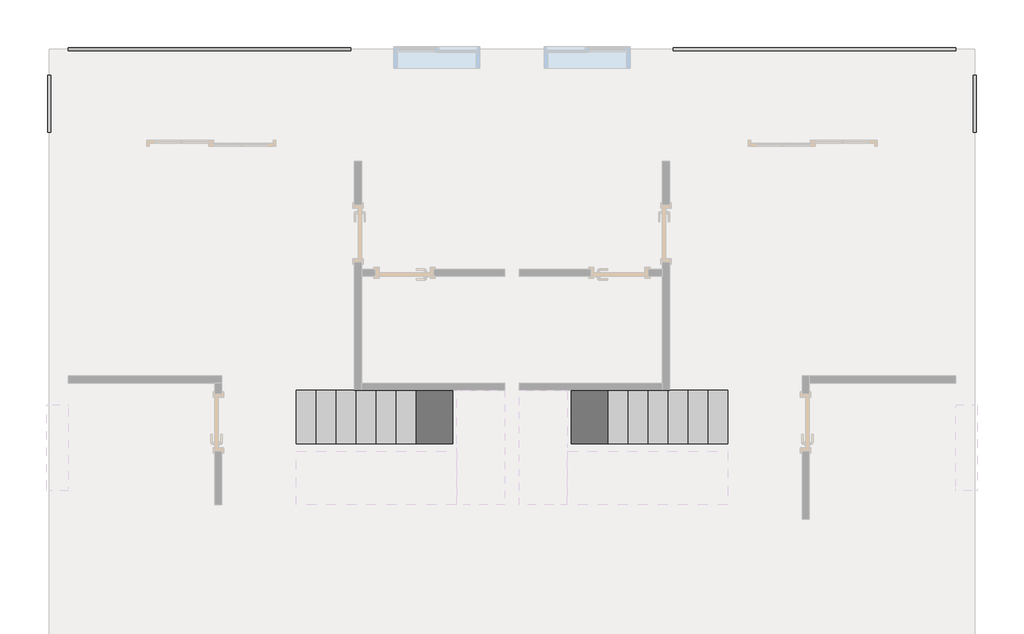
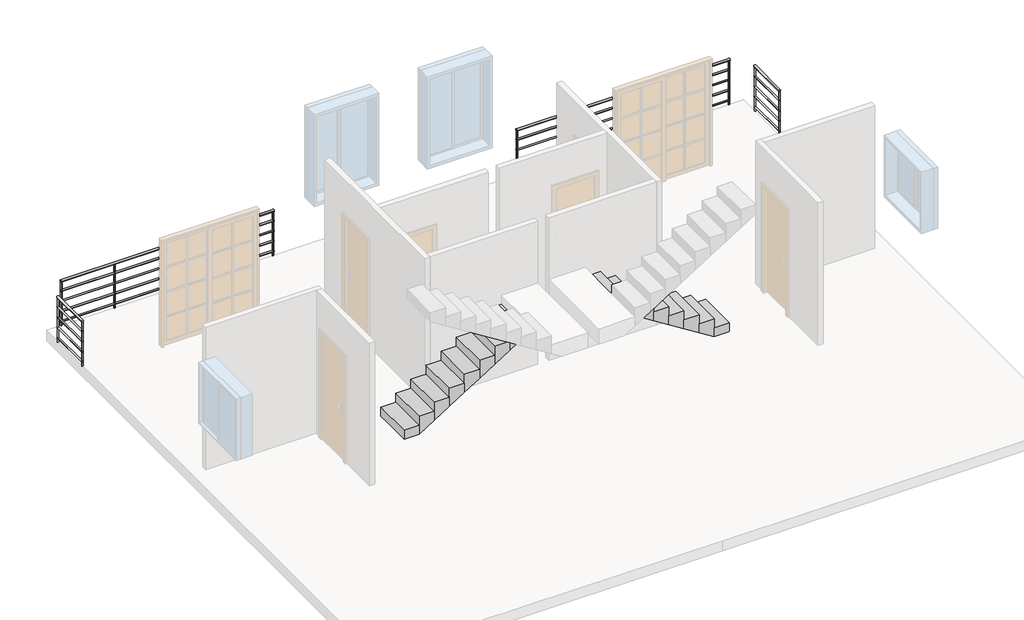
# One storey, part 2 of 2: 4 railings, 2 stair flights.
"""IFC4 building model written with IfcOpenShell, lengths in millimetres."""

from ifc_helpers import new_model, si_unit, point, frame, frame_2d, origin, origin_with_axes, place, context, project, spatial, circle_curve, trimmed, segment, composite_curve, outline, extrude, faceted_brep, element, save

model = new_model("IFC4")

# Units and contexts
model_context = context("Model", 3, world=origin())
ifc_project = project(units=[si_unit("LENGTHUNIT", "METRE", prefix="MILLI")], contexts=[model_context])

# Site, building, storey
site = spatial("IfcSite", under=ifc_project)
building = spatial("IfcBuilding", under=site)
storey = spatial("IfcBuildingStorey", under=building, Name="标高 1", Elevation=0.0)

# Railings
placement = place(None, origin())
element("IfcRailing", 1, ObjectType="900mm 圆管", at=placement, inside=storey, context=model_context, shape_type="SweptSolid", body=[
    extrude(outline(composite_curve([segment(trimmed(circle_curve(frame_2d((880.0, -8299.5311174)), 20.0), [point((880.0, -8279.5311174))], [point((880.0, -8319.5311174))], False, "CARTESIAN"), True, "CONTINUOUS"), segment(trimmed(circle_curve(frame_2d((880.0, -8299.5311174)), 20.0), [point((880.0, -8319.5311174))], [point((880.0, -8279.5311174))], False, "CARTESIAN"), True, "CONTINUOUS")], self_intersect=False)), frame((0.0, 4130.4705333, 0.0), z_axis=(0.0, 1.0, 0.0), x_axis=(0.0, 0.0, 1.0)), (0.0, 0.0, 1.0), 800.0),
    extrude(outline(composite_curve([segment(trimmed(circle_curve(frame_2d((685.0, -8299.5311174)), 15.0), [point((685.0, -8314.5311174))], [point((685.0, -8284.5311174))], False, "CARTESIAN"), True, "CONTINUOUS"), segment(trimmed(circle_curve(frame_2d((685.0, -8299.5311174)), 15.0), [point((685.0, -8284.5311174))], [point((685.0, -8314.5311174))], False, "CARTESIAN"), True, "CONTINUOUS")], self_intersect=False)), frame((0.0, 4130.4705333, 0.0), z_axis=(0.0, 1.0, 0.0), x_axis=(0.0, 0.0, 1.0)), (0.0, 0.0, 1.0), 800.0),
    extrude(outline(composite_curve([segment(trimmed(circle_curve(frame_2d((485.0, -8299.5311174)), 15.0), [point((485.0, -8314.5311174))], [point((485.0, -8284.5311174))], False, "CARTESIAN"), True, "CONTINUOUS"), segment(trimmed(circle_curve(frame_2d((485.0, -8299.5311174)), 15.0), [point((485.0, -8284.5311174))], [point((485.0, -8314.5311174))], False, "CARTESIAN"), True, "CONTINUOUS")], self_intersect=False)), frame((0.0, 4130.4705333, 0.0), z_axis=(0.0, 1.0, 0.0), x_axis=(0.0, 0.0, 1.0)), (0.0, 0.0, 1.0), 800.0),
    extrude(outline(composite_curve([segment(trimmed(circle_curve(frame_2d((285.0, -8299.5311174)), 15.0), [point((285.0, -8314.5311174))], [point((285.0, -8284.5311174))], False, "CARTESIAN"), True, "CONTINUOUS"), segment(trimmed(circle_curve(frame_2d((285.0, -8299.5311174)), 15.0), [point((285.0, -8284.5311174))], [point((285.0, -8314.5311174))], False, "CARTESIAN"), True, "CONTINUOUS")], self_intersect=False)), frame((0.0, 4130.4705333, 0.0), z_axis=(0.0, 1.0, 0.0), x_axis=(0.0, 0.0, 1.0)), (0.0, 0.0, 1.0), 800.0),
    extrude(outline(composite_curve([segment(trimmed(circle_curve(frame_2d((85.0, -8299.5311174)), 15.0), [point((85.0, -8314.5311174))], [point((85.0, -8284.5311174))], False, "CARTESIAN"), True, "CONTINUOUS"), segment(trimmed(circle_curve(frame_2d((85.0, -8299.5311174)), 15.0), [point((85.0, -8284.5311174))], [point((85.0, -8314.5311174))], False, "CARTESIAN"), True, "CONTINUOUS")], self_intersect=False)), frame((0.0, 4130.4705333, 0.0), z_axis=(0.0, 1.0, 0.0), x_axis=(0.0, 0.0, 1.0)), (0.0, 0.0, 1.0), 800.0),
    extrude(outline(composite_curve([segment(trimmed(circle_curve(frame_2d((-8299.5311174, 4917.9705333)), 12.5), [point((-8312.0311174, 4917.9705333))], [point((-8287.0311174, 4917.9705333))], False, "CARTESIAN"), True, "CONTINUOUS"), segment(trimmed(circle_curve(frame_2d((-8299.5311174, 4917.9705333)), 12.5), [point((-8287.0311174, 4917.9705333))], [point((-8312.0311174, 4917.9705333))], False, "CARTESIAN"), True, "CONTINUOUS")], self_intersect=False)), origin_with_axes(), (0.0, 0.0, 1.0), 860.0),
    extrude(outline(composite_curve([segment(trimmed(circle_curve(frame_2d((-8299.5311174, 4142.9705333)), 12.5), [point((-8312.0311174, 4142.9705333))], [point((-8287.0311174, 4142.9705333))], False, "CARTESIAN"), True, "CONTINUOUS"), segment(trimmed(circle_curve(frame_2d((-8299.5311174, 4142.9705333)), 12.5), [point((-8287.0311174, 4142.9705333))], [point((-8312.0311174, 4142.9705333))], False, "CARTESIAN"), True, "CONTINUOUS")], self_intersect=False)), origin_with_axes(), (0.0, 0.0, 1.0), 860.0),
])
element("IfcRailing", 2, ObjectType="900mm 圆管", at=placement, inside=storey, context=model_context, shape_type="SweptSolid", body=[
    extrude(outline(composite_curve([segment(trimmed(circle_curve(frame_2d((5290.4705333, 880.0)), 20.0), [point((5270.4705333, 880.0))], [point((5310.4705333, 880.0))], False, "CARTESIAN"), True, "CONTINUOUS"), segment(trimmed(circle_curve(frame_2d((5290.4705333, 880.0)), 20.0), [point((5310.4705333, 880.0))], [point((5270.4705333, 880.0))], False, "CARTESIAN"), True, "CONTINUOUS")], self_intersect=False)), frame((-8039.5311174, 0.0, 0.0), z_axis=(1.0, 0.0, 0.0), x_axis=(0.0, 1.0, 0.0)), (0.0, 0.0, 1.0), 3950.0),
    extrude(outline(composite_curve([segment(trimmed(circle_curve(frame_2d((5290.4705333, 685.0)), 15.0), [point((5305.4705333, 685.0))], [point((5275.4705333, 685.0))], False, "CARTESIAN"), True, "CONTINUOUS"), segment(trimmed(circle_curve(frame_2d((5290.4705333, 685.0)), 15.0), [point((5275.4705333, 685.0))], [point((5305.4705333, 685.0))], False, "CARTESIAN"), True, "CONTINUOUS")], self_intersect=False)), frame((-8039.5311174, 0.0, 0.0), z_axis=(1.0, 0.0, 0.0), x_axis=(0.0, 1.0, 0.0)), (0.0, 0.0, 1.0), 3950.0),
    extrude(outline(composite_curve([segment(trimmed(circle_curve(frame_2d((5290.4705333, 485.0)), 15.0), [point((5305.4705333, 485.0))], [point((5275.4705333, 485.0))], False, "CARTESIAN"), True, "CONTINUOUS"), segment(trimmed(circle_curve(frame_2d((5290.4705333, 485.0)), 15.0), [point((5275.4705333, 485.0))], [point((5305.4705333, 485.0))], False, "CARTESIAN"), True, "CONTINUOUS")], self_intersect=False)), frame((-8039.5311174, 0.0, 0.0), z_axis=(1.0, 0.0, 0.0), x_axis=(0.0, 1.0, 0.0)), (0.0, 0.0, 1.0), 3950.0),
    extrude(outline(composite_curve([segment(trimmed(circle_curve(frame_2d((5290.4705333, 285.0)), 15.0), [point((5305.4705333, 285.0))], [point((5275.4705333, 285.0))], False, "CARTESIAN"), True, "CONTINUOUS"), segment(trimmed(circle_curve(frame_2d((5290.4705333, 285.0)), 15.0), [point((5275.4705333, 285.0))], [point((5305.4705333, 285.0))], False, "CARTESIAN"), True, "CONTINUOUS")], self_intersect=False)), frame((-8039.5311174, 0.0, 0.0), z_axis=(1.0, 0.0, 0.0), x_axis=(0.0, 1.0, 0.0)), (0.0, 0.0, 1.0), 3950.0),
    extrude(outline(composite_curve([segment(trimmed(circle_curve(frame_2d((5290.4705333, 85.0)), 15.0), [point((5305.4705333, 85.0))], [point((5275.4705333, 85.0))], False, "CARTESIAN"), True, "CONTINUOUS"), segment(trimmed(circle_curve(frame_2d((5290.4705333, 85.0)), 15.0), [point((5275.4705333, 85.0))], [point((5305.4705333, 85.0))], False, "CARTESIAN"), True, "CONTINUOUS")], self_intersect=False)), frame((-8039.5311174, 0.0, 0.0), z_axis=(1.0, 0.0, 0.0), x_axis=(0.0, 1.0, 0.0)), (0.0, 0.0, 1.0), 3950.0),
    extrude(outline(composite_curve([segment(trimmed(circle_curve(frame_2d((-5039.5311174, 5290.4705333)), 12.5), [point((-5039.5311174, 5302.9705333))], [point((-5039.5311174, 5277.9705333))], False, "CARTESIAN"), True, "CONTINUOUS"), segment(trimmed(circle_curve(frame_2d((-5039.5311174, 5290.4705333)), 12.5), [point((-5039.5311174, 5277.9705333))], [point((-5039.5311174, 5302.9705333))], False, "CARTESIAN"), True, "CONTINUOUS")], self_intersect=False)), origin_with_axes(), (0.0, 0.0, 1.0), 860.0),
    extrude(outline(composite_curve([segment(trimmed(circle_curve(frame_2d((-6039.5311174, 5290.4705333)), 12.5), [point((-6039.5311174, 5302.9705333))], [point((-6039.5311174, 5277.9705333))], False, "CARTESIAN"), True, "CONTINUOUS"), segment(trimmed(circle_curve(frame_2d((-6039.5311174, 5290.4705333)), 12.5), [point((-6039.5311174, 5277.9705333))], [point((-6039.5311174, 5302.9705333))], False, "CARTESIAN"), True, "CONTINUOUS")], self_intersect=False)), origin_with_axes(), (0.0, 0.0, 1.0), 860.0),
    extrude(outline(composite_curve([segment(trimmed(circle_curve(frame_2d((-7039.5311174, 5290.4705333)), 12.5), [point((-7039.5311174, 5302.9705333))], [point((-7039.5311174, 5277.9705333))], False, "CARTESIAN"), True, "CONTINUOUS"), segment(trimmed(circle_curve(frame_2d((-7039.5311174, 5290.4705333)), 12.5), [point((-7039.5311174, 5277.9705333))], [point((-7039.5311174, 5302.9705333))], False, "CARTESIAN"), True, "CONTINUOUS")], self_intersect=False)), origin_with_axes(), (0.0, 0.0, 1.0), 860.0),
    extrude(outline(composite_curve([segment(trimmed(circle_curve(frame_2d((-4102.0311174, 5290.4705333)), 12.5), [point((-4102.0311174, 5302.9705333))], [point((-4102.0311174, 5277.9705333))], False, "CARTESIAN"), True, "CONTINUOUS"), segment(trimmed(circle_curve(frame_2d((-4102.0311174, 5290.4705333)), 12.5), [point((-4102.0311174, 5277.9705333))], [point((-4102.0311174, 5302.9705333))], False, "CARTESIAN"), True, "CONTINUOUS")], self_intersect=False)), origin_with_axes(), (0.0, 0.0, 1.0), 860.0),
    extrude(outline(composite_curve([segment(trimmed(circle_curve(frame_2d((-8027.0311174, 5290.4705333)), 12.5), [point((-8027.0311174, 5302.9705333))], [point((-8027.0311174, 5277.9705333))], False, "CARTESIAN"), True, "CONTINUOUS"), segment(trimmed(circle_curve(frame_2d((-8027.0311174, 5290.4705333)), 12.5), [point((-8027.0311174, 5277.9705333))], [point((-8027.0311174, 5302.9705333))], False, "CARTESIAN"), True, "CONTINUOUS")], self_intersect=False)), origin_with_axes(), (0.0, 0.0, 1.0), 860.0),
])
element("IfcRailing", 3, ObjectType="900mm 圆管", at=placement, inside=storey, context=model_context, shape_type="SweptSolid", body=[
    extrude(outline(composite_curve([segment(trimmed(circle_curve(frame_2d((880.0, 4620.4688826)), 20.0), [point((880.0, 4640.4688826))], [point((880.0, 4600.4688826))], False, "CARTESIAN"), True, "CONTINUOUS"), segment(trimmed(circle_curve(frame_2d((880.0, 4620.4688826)), 20.0), [point((880.0, 4600.4688826))], [point((880.0, 4640.4688826))], False, "CARTESIAN"), True, "CONTINUOUS")], self_intersect=False)), frame((0.0, 4130.4705333, 0.0), z_axis=(0.0, 1.0, 0.0), x_axis=(0.0, 0.0, 1.0)), (0.0, 0.0, 1.0), 800.0),
    extrude(outline(composite_curve([segment(trimmed(circle_curve(frame_2d((685.0, 4620.4688826)), 15.0), [point((685.0, 4635.4688826))], [point((685.0, 4605.4688826))], False, "CARTESIAN"), True, "CONTINUOUS"), segment(trimmed(circle_curve(frame_2d((685.0, 4620.4688826)), 15.0), [point((685.0, 4605.4688826))], [point((685.0, 4635.4688826))], False, "CARTESIAN"), True, "CONTINUOUS")], self_intersect=False)), frame((0.0, 4130.4705333, 0.0), z_axis=(0.0, 1.0, 0.0), x_axis=(0.0, 0.0, 1.0)), (0.0, 0.0, 1.0), 800.0),
    extrude(outline(composite_curve([segment(trimmed(circle_curve(frame_2d((485.0, 4620.4688826)), 15.0), [point((485.0, 4635.4688826))], [point((485.0, 4605.4688826))], False, "CARTESIAN"), True, "CONTINUOUS"), segment(trimmed(circle_curve(frame_2d((485.0, 4620.4688826)), 15.0), [point((485.0, 4605.4688826))], [point((485.0, 4635.4688826))], False, "CARTESIAN"), True, "CONTINUOUS")], self_intersect=False)), frame((0.0, 4130.4705333, 0.0), z_axis=(0.0, 1.0, 0.0), x_axis=(0.0, 0.0, 1.0)), (0.0, 0.0, 1.0), 800.0),
    extrude(outline(composite_curve([segment(trimmed(circle_curve(frame_2d((285.0, 4620.4688826)), 15.0), [point((285.0, 4635.4688826))], [point((285.0, 4605.4688826))], False, "CARTESIAN"), True, "CONTINUOUS"), segment(trimmed(circle_curve(frame_2d((285.0, 4620.4688826)), 15.0), [point((285.0, 4605.4688826))], [point((285.0, 4635.4688826))], False, "CARTESIAN"), True, "CONTINUOUS")], self_intersect=False)), frame((0.0, 4130.4705333, 0.0), z_axis=(0.0, 1.0, 0.0), x_axis=(0.0, 0.0, 1.0)), (0.0, 0.0, 1.0), 800.0),
    extrude(outline(composite_curve([segment(trimmed(circle_curve(frame_2d((85.0, 4620.4688826)), 15.0), [point((85.0, 4635.4688826))], [point((85.0, 4605.4688826))], False, "CARTESIAN"), True, "CONTINUOUS"), segment(trimmed(circle_curve(frame_2d((85.0, 4620.4688826)), 15.0), [point((85.0, 4605.4688826))], [point((85.0, 4635.4688826))], False, "CARTESIAN"), True, "CONTINUOUS")], self_intersect=False)), frame((0.0, 4130.4705333, 0.0), z_axis=(0.0, 1.0, 0.0), x_axis=(0.0, 0.0, 1.0)), (0.0, 0.0, 1.0), 800.0),
    extrude(outline(composite_curve([segment(trimmed(circle_curve(frame_2d((4620.4688826, 4917.9705333)), 12.5), [point((4632.9688826, 4917.9705333))], [point((4607.9688826, 4917.9705333))], False, "CARTESIAN"), True, "CONTINUOUS"), segment(trimmed(circle_curve(frame_2d((4620.4688826, 4917.9705333)), 12.5), [point((4607.9688826, 4917.9705333))], [point((4632.9688826, 4917.9705333))], False, "CARTESIAN"), True, "CONTINUOUS")], self_intersect=False)), origin_with_axes(), (0.0, 0.0, 1.0), 860.0),
    extrude(outline(composite_curve([segment(trimmed(circle_curve(frame_2d((4620.4688826, 4142.9705333)), 12.5), [point((4632.9688826, 4142.9705333))], [point((4607.9688826, 4142.9705333))], False, "CARTESIAN"), True, "CONTINUOUS"), segment(trimmed(circle_curve(frame_2d((4620.4688826, 4142.9705333)), 12.5), [point((4607.9688826, 4142.9705333))], [point((4632.9688826, 4142.9705333))], False, "CARTESIAN"), True, "CONTINUOUS")], self_intersect=False)), origin_with_axes(), (0.0, 0.0, 1.0), 860.0),
])
element("IfcRailing", 4, ObjectType="900mm 圆管", at=placement, inside=storey, context=model_context, shape_type="SweptSolid", body=[
    extrude(outline(composite_curve([segment(trimmed(circle_curve(frame_2d((5290.4705333, 880.0)), 20.0), [point((5310.4705333, 880.0))], [point((5270.4705333, 880.0))], False, "CARTESIAN"), True, "CONTINUOUS"), segment(trimmed(circle_curve(frame_2d((5290.4705333, 880.0)), 20.0), [point((5270.4705333, 880.0))], [point((5310.4705333, 880.0))], False, "CARTESIAN"), True, "CONTINUOUS")], self_intersect=False)), frame((410.4688826, 0.0, 0.0), z_axis=(1.0, 0.0, 0.0), x_axis=(0.0, 1.0, 0.0)), (0.0, 0.0, 1.0), 3950.0),
    extrude(outline(composite_curve([segment(trimmed(circle_curve(frame_2d((5290.4705333, 685.0)), 15.0), [point((5305.4705333, 685.0))], [point((5275.4705333, 685.0))], False, "CARTESIAN"), True, "CONTINUOUS"), segment(trimmed(circle_curve(frame_2d((5290.4705333, 685.0)), 15.0), [point((5275.4705333, 685.0))], [point((5305.4705333, 685.0))], False, "CARTESIAN"), True, "CONTINUOUS")], self_intersect=False)), frame((410.4688826, 0.0, 0.0), z_axis=(1.0, 0.0, 0.0), x_axis=(0.0, 1.0, 0.0)), (0.0, 0.0, 1.0), 3950.0),
    extrude(outline(composite_curve([segment(trimmed(circle_curve(frame_2d((5290.4705333, 485.0)), 15.0), [point((5305.4705333, 485.0))], [point((5275.4705333, 485.0))], False, "CARTESIAN"), True, "CONTINUOUS"), segment(trimmed(circle_curve(frame_2d((5290.4705333, 485.0)), 15.0), [point((5275.4705333, 485.0))], [point((5305.4705333, 485.0))], False, "CARTESIAN"), True, "CONTINUOUS")], self_intersect=False)), frame((410.4688826, 0.0, 0.0), z_axis=(1.0, 0.0, 0.0), x_axis=(0.0, 1.0, 0.0)), (0.0, 0.0, 1.0), 3950.0),
    extrude(outline(composite_curve([segment(trimmed(circle_curve(frame_2d((5290.4705333, 285.0)), 15.0), [point((5305.4705333, 285.0))], [point((5275.4705333, 285.0))], False, "CARTESIAN"), True, "CONTINUOUS"), segment(trimmed(circle_curve(frame_2d((5290.4705333, 285.0)), 15.0), [point((5275.4705333, 285.0))], [point((5305.4705333, 285.0))], False, "CARTESIAN"), True, "CONTINUOUS")], self_intersect=False)), frame((410.4688826, 0.0, 0.0), z_axis=(1.0, 0.0, 0.0), x_axis=(0.0, 1.0, 0.0)), (0.0, 0.0, 1.0), 3950.0),
    extrude(outline(composite_curve([segment(trimmed(circle_curve(frame_2d((5290.4705333, 85.0)), 15.0), [point((5305.4705333, 85.0))], [point((5275.4705333, 85.0))], False, "CARTESIAN"), True, "CONTINUOUS"), segment(trimmed(circle_curve(frame_2d((5290.4705333, 85.0)), 15.0), [point((5275.4705333, 85.0))], [point((5305.4705333, 85.0))], False, "CARTESIAN"), True, "CONTINUOUS")], self_intersect=False)), frame((410.4688826, 0.0, 0.0), z_axis=(1.0, 0.0, 0.0), x_axis=(0.0, 1.0, 0.0)), (0.0, 0.0, 1.0), 3950.0),
    extrude(outline(composite_curve([segment(trimmed(circle_curve(frame_2d((1360.4688826, 5290.4705333)), 12.5), [point((1360.4688826, 5302.9705333))], [point((1360.4688826, 5277.9705333))], False, "CARTESIAN"), True, "CONTINUOUS"), segment(trimmed(circle_curve(frame_2d((1360.4688826, 5290.4705333)), 12.5), [point((1360.4688826, 5277.9705333))], [point((1360.4688826, 5302.9705333))], False, "CARTESIAN"), True, "CONTINUOUS")], self_intersect=False)), origin_with_axes(), (0.0, 0.0, 1.0), 860.0),
    extrude(outline(composite_curve([segment(trimmed(circle_curve(frame_2d((2360.4688826, 5290.4705333)), 12.5), [point((2360.4688826, 5302.9705333))], [point((2360.4688826, 5277.9705333))], False, "CARTESIAN"), True, "CONTINUOUS"), segment(trimmed(circle_curve(frame_2d((2360.4688826, 5290.4705333)), 12.5), [point((2360.4688826, 5277.9705333))], [point((2360.4688826, 5302.9705333))], False, "CARTESIAN"), True, "CONTINUOUS")], self_intersect=False)), origin_with_axes(), (0.0, 0.0, 1.0), 860.0),
    extrude(outline(composite_curve([segment(trimmed(circle_curve(frame_2d((3360.4688826, 5290.4705333)), 12.5), [point((3360.4688826, 5302.9705333))], [point((3360.4688826, 5277.9705333))], False, "CARTESIAN"), True, "CONTINUOUS"), segment(trimmed(circle_curve(frame_2d((3360.4688826, 5290.4705333)), 12.5), [point((3360.4688826, 5277.9705333))], [point((3360.4688826, 5302.9705333))], False, "CARTESIAN"), True, "CONTINUOUS")], self_intersect=False)), origin_with_axes(), (0.0, 0.0, 1.0), 860.0),
    extrude(outline(composite_curve([segment(trimmed(circle_curve(frame_2d((422.9688826, 5290.4705333)), 12.5), [point((422.9688826, 5302.9705333))], [point((422.9688826, 5277.9705333))], False, "CARTESIAN"), True, "CONTINUOUS"), segment(trimmed(circle_curve(frame_2d((422.9688826, 5290.4705333)), 12.5), [point((422.9688826, 5277.9705333))], [point((422.9688826, 5302.9705333))], False, "CARTESIAN"), True, "CONTINUOUS")], self_intersect=False)), origin_with_axes(), (0.0, 0.0, 1.0), 860.0),
    extrude(outline(composite_curve([segment(trimmed(circle_curve(frame_2d((4347.9688826, 5290.4705333)), 12.5), [point((4347.9688826, 5302.9705333))], [point((4347.9688826, 5277.9705333))], False, "CARTESIAN"), True, "CONTINUOUS"), segment(trimmed(circle_curve(frame_2d((4347.9688826, 5290.4705333)), 12.5), [point((4347.9688826, 5277.9705333))], [point((4347.9688826, 5302.9705333))], False, "CARTESIAN"), True, "CONTINUOUS")], self_intersect=False)), origin_with_axes(), (0.0, 0.0, 1.0), 860.0),
])

# Stair flights
element("IfcStairFlight", 5, ObjectType="150mm 结构深度 2", at=placement, inside=storey, context=model_context, shape_type="Brep", body=[
    faceted_brep([(-4574.5311174, 530.4705333, 176.4705882), (-4854.5311174, 530.4705333, 176.4705882), (-4854.5311174, -219.5294667, 176.4705882), (-4574.5311174, -219.5294667, 176.4705882), (-4574.5311174, 530.4705333, 0.0), (-4854.5311174, 530.4705333, 0.0), (-4854.5311174, -219.5294667, 0.0), (-4574.5311174, -219.5294667, 0.0), (-4294.5311174, 530.4705333, 352.9411765), (-4574.5311174, 530.4705333, 352.9411765), (-4574.5311174, -219.5294667, 352.9411765), (-4294.5311174, -219.5294667, 352.9411765), (-4294.5311174, 530.4705333, 175.6352305), (-4573.2056831, 530.4705333, 0.0), (-4573.2056831, -219.5294667, 0.0), (-4294.5311174, -219.5294667, 175.6352305), (-4014.5311174, 530.4705333, 529.4117647), (-4294.5311174, 530.4705333, 529.4117647), (-4294.5311174, -219.5294667, 529.4117647), (-4014.5311174, -219.5294667, 529.4117647), (-4014.5311174, 530.4705333, 352.1058187), (-4014.5311174, -219.5294667, 352.1058187), (-3734.5311174, 530.4705333, 705.8823529), (-4014.5311174, 530.4705333, 705.8823529), (-4014.5311174, -219.5294667, 705.8823529), (-3734.5311174, -219.5294667, 705.8823529), (-3734.5311174, 530.4705333, 528.5764069), (-3734.5311174, -219.5294667, 528.5764069), (-3454.5311174, 530.4705333, 882.3529412), (-3734.5311174, 530.4705333, 882.3529412), (-3734.5311174, -219.5294667, 882.3529412), (-3454.5311174, -219.5294667, 882.3529412), (-3454.5311174, 530.4705333, 705.0469952), (-3454.5311174, -219.5294667, 705.0469952), (-3174.5311174, 530.4705333, 1058.8235294), (-3454.5311174, 530.4705333, 1058.8235294), (-3454.5311174, -219.5294667, 1058.8235294), (-3174.5311174, -219.5294667, 1058.8235294), (-3174.5311174, 530.4705333, 881.5175834), (-3174.5311174, -219.5294667, 881.5175834), (-2894.5311174, 530.4705333, 1235.2941176), (-3174.5311174, 530.4705333, 1235.2941176), (-3174.5311174, -219.5294667, 1235.2941176), (-2894.5311174, -219.5294667, 1235.2941176), (-2894.5311174, 530.4705333, 1057.9881716), (-2894.5311174, -219.5294667, 1057.9881716), (-2614.5311174, 530.4705333, 1411.7647059), (-2894.5311174, 530.4705333, 1411.7647059), (-2894.5311174, -219.5294667, 1411.7647059), (-2614.5311174, -219.5294667, 1411.7647059), (-2614.5311174, 530.4705333, 1234.4587599), (-2614.5311174, -219.5294667, 1234.4587599), (-2614.5311174, -219.5294667, 1288.2352941)], [[[0, 1, 2, 3]], [[1, 0, 4, 5]], [[2, 1, 5, 6]], [[3, 2, 6, 7]], [[8, 9, 10, 11]], [[4, 0, 9, 8, 12, 13]], [[0, 3, 10, 9]], [[3, 7, 14, 15, 11, 10]], [[16, 17, 18, 19]], [[17, 16, 20, 12, 8]], [[8, 11, 18, 17]], [[19, 18, 11, 15, 21]], [[22, 23, 24, 25]], [[23, 22, 26, 20, 16]], [[16, 19, 24, 23]], [[25, 24, 19, 21, 27]], [[28, 29, 30, 31]], [[29, 28, 32, 26, 22]], [[22, 25, 30, 29]], [[31, 30, 25, 27, 33]], [[34, 35, 36, 37]], [[35, 34, 38, 32, 28]], [[28, 31, 36, 35]], [[37, 36, 31, 33, 39]], [[40, 41, 42, 43]], [[41, 40, 44, 38, 34]], [[34, 37, 42, 41]], [[43, 42, 37, 39, 45]], [[46, 47, 48, 49]], [[47, 46, 50, 44, 40]], [[40, 43, 48, 47]], [[49, 48, 43, 45, 51, 52]], [[46, 49, 52, 51, 50]], [[5, 4, 13, 14, 7, 6]], [[14, 13, 12, 20, 26, 32, 38, 44, 50, 51, 45, 39, 33, 27, 21, 15]]]),
])
element("IfcStairFlight", 6, ObjectType="150mm 结构深度 2", at=placement, inside=storey, context=model_context, shape_type="Brep", body=[
    faceted_brep([(895.4688826, -219.5294667, 176.4705882), (1175.4688826, -219.5294667, 176.4705882), (1175.4688826, 530.4705333, 176.4705882), (895.4688826, 530.4705333, 176.4705882), (895.4688826, -219.5294667, 0.0), (1175.4688826, -219.5294667, 0.0), (1175.4688826, 530.4705333, 0.0), (895.4688826, 530.4705333, 0.0), (615.4688826, -219.5294667, 352.9411765), (895.4688826, -219.5294667, 352.9411765), (895.4688826, 530.4705333, 352.9411765), (615.4688826, 530.4705333, 352.9411765), (615.4688826, -219.5294667, 175.6352305), (894.1434483, -219.5294667, 0.0), (894.1434483, 530.4705333, 0.0), (615.4688826, 530.4705333, 175.6352305), (335.4688826, -219.5294667, 529.4117647), (615.4688826, -219.5294667, 529.4117647), (615.4688826, 530.4705333, 529.4117647), (335.4688826, 530.4705333, 529.4117647), (335.4688826, -219.5294667, 352.1058187), (335.4688826, 530.4705333, 352.1058187), (55.4688826, -219.5294667, 705.8823529), (335.4688826, -219.5294667, 705.8823529), (335.4688826, 530.4705333, 705.8823529), (55.4688826, 530.4705333, 705.8823529), (55.4688826, -219.5294667, 528.5764069), (55.4688826, 530.4705333, 528.5764069), (-224.5311174, -219.5294667, 882.3529412), (55.4688826, -219.5294667, 882.3529412), (55.4688826, 530.4705333, 882.3529412), (-224.5311174, 530.4705333, 882.3529412), (-224.5311174, -219.5294667, 705.0469952), (-224.5311174, 530.4705333, 705.0469952), (-504.5311174, -219.5294667, 1058.8235294), (-224.5311174, -219.5294667, 1058.8235294), (-224.5311174, 530.4705333, 1058.8235294), (-504.5311174, 530.4705333, 1058.8235294), (-504.5311174, -219.5294667, 881.5175834), (-504.5311174, 530.4705333, 881.5175834), (-784.5311174, -219.5294667, 1235.2941176), (-504.5311174, -219.5294667, 1235.2941176), (-504.5311174, 530.4705333, 1235.2941176), (-784.5311174, 530.4705333, 1235.2941176), (-784.5311174, -219.5294667, 1057.9881716), (-784.5311174, 530.4705333, 1057.9881716), (-1064.5311174, -219.5294667, 1411.7647059), (-784.5311174, -219.5294667, 1411.7647059), (-784.5311174, 530.4705333, 1411.7647059), (-1064.5311174, 530.4705333, 1411.7647059), (-1064.5311174, -219.5294667, 1288.2352941), (-1064.5311174, -219.5294667, 1234.4587599), (-1064.5311174, 530.4705333, 1234.4587599)], [[[0, 1, 2, 3]], [[1, 0, 4, 5]], [[2, 1, 5, 6]], [[3, 2, 6, 7]], [[8, 9, 10, 11]], [[4, 0, 9, 8, 12, 13]], [[0, 3, 10, 9]], [[3, 7, 14, 15, 11, 10]], [[16, 17, 18, 19]], [[17, 16, 20, 12, 8]], [[8, 11, 18, 17]], [[19, 18, 11, 15, 21]], [[22, 23, 24, 25]], [[23, 22, 26, 20, 16]], [[16, 19, 24, 23]], [[25, 24, 19, 21, 27]], [[28, 29, 30, 31]], [[29, 28, 32, 26, 22]], [[22, 25, 30, 29]], [[31, 30, 25, 27, 33]], [[34, 35, 36, 37]], [[35, 34, 38, 32, 28]], [[28, 31, 36, 35]], [[37, 36, 31, 33, 39]], [[40, 41, 42, 43]], [[41, 40, 44, 38, 34]], [[34, 37, 42, 41]], [[43, 42, 37, 39, 45]], [[46, 47, 48, 49]], [[47, 46, 50, 51, 44, 40]], [[40, 43, 48, 47]], [[49, 48, 43, 45, 52]], [[46, 49, 52, 51, 50]], [[5, 4, 13, 14, 7, 6]], [[14, 13, 12, 20, 26, 32, 38, 44, 51, 52, 45, 39, 33, 27, 21, 15]]]),
])

save(model, "model.ifc")
